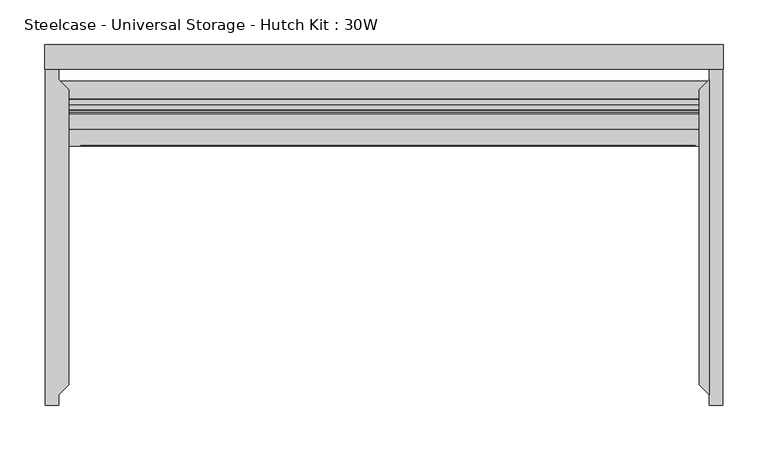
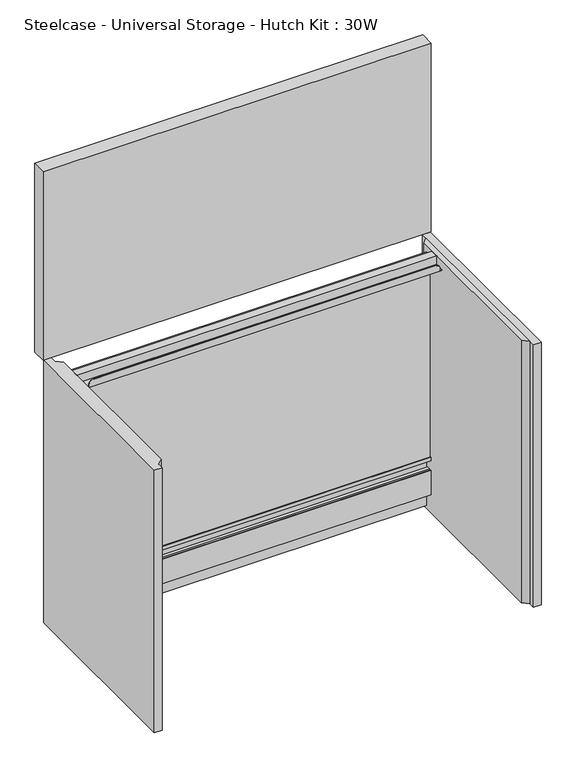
"""IFC4 building model written with IfcOpenShell, lengths in millimetres: furniture geometry, Steelcase - Universal Storage - Hutch Kit : 30W."""

from ifc_helpers import new_model, si_unit, frame, origin, place, context, project, spatial, polyline, circle_curve, outline, extrude, faceted_brep, source, transform, mapped, element, save
from ifc_brep_helpers import plane_surface, cylinder_surface, advanced_brep


def steelcase_universal_storage_hutch_kit_30w_beb12b78(model_context):
    return source(origin(), model_context, "Body", "SolidModel", [
        extrude(outline(polyline([(745.8202, -39.6494001), (745.8202, -393.4459972), (734.822, -382.447795), (734.822, -50.6476006), (745.8202, -39.6494001)])), frame((0.0, 0.0, 723.9), z_axis=(0.0, 0.0, 1.0), x_axis=(1.0, 0.0, 0.0)), (0.0, 0.0, 1.0), 544.8554),
        extrude(outline(polyline([(745.8202, -27.9400006), (761.1872, -27.9400006), (761.1872, -405.1553842), (745.8202, -405.1553842), (745.8202, -27.9400006)])), frame((0.0, 0.0, 723.9), z_axis=(0.0, 0.0, 1.0), x_axis=(1.0, 0.0, 0.0)), (0.0, 0.0, 1.0), 544.8554),
        extrude(outline(polyline([(16.1798, -405.1553842), (0.8128, -405.1553842), (0.8128, -27.9400006), (16.1798, -27.9400006), (16.1798, -39.6494001), (27.178, -50.6476006), (27.178, -382.447795), (16.1798, -393.4459972), (16.1798, -405.1553842)])), frame((0.0, 0.0, 723.9), z_axis=(0.0, 0.0, 1.0), x_axis=(1.0, 0.0, 0.0)), (0.0, 0.0, 1.0), 544.8554),
        advanced_brep(
        [(734.822, -78.4097988, 1250.975386), (734.822, -78.4097988, 1268.7554), (734.822, -94.7420005, 1268.7554), (734.822, -94.7420005, 1251.8898651), (734.822, -114.2492006, 1251.8898651), (734.822, -114.2492006, 1250.975386), (734.822, -93.8275986, 1250.975386), (734.822, -93.8275986, 1267.8410717), (734.822, -79.3242007, 1267.8410717), (734.822, -79.3242007, 1250.975386), (27.178, -78.4097988, 1250.975386), (27.178, -79.3242007, 1250.975386), (27.178, -79.3242007, 1267.8410717), (27.178, -93.8275986, 1267.8410717), (27.178, -93.8275986, 1250.975386), (27.178, -114.2492006, 1250.975386), (27.178, -114.2492006, 1251.8898651), (27.178, -94.7420005, 1251.8898651), (27.178, -94.7420005, 1268.7554), (27.178, -78.4097988, 1268.7554), (40.5892014, -114.2492006, 1251.8898651), (40.5892014, -113.3348006, 1251.8898651), (730.2809148, -113.3348006, 1251.8898651), (730.2809148, -114.2492006, 1251.8898651), (730.2809148, -114.2492006, 1256.0554636), (721.3909148, -114.2492006, 1264.9454636), (49.4792014, -114.2492006, 1264.9454636), (40.5892014, -114.2492006, 1256.0554636), (40.5892014, -113.3348006, 1256.0554636), (49.4792014, -113.3348006, 1264.9454636), (721.3909148, -113.3348006, 1264.9454636), (730.2809148, -113.3348006, 1256.0554636)],
        [
            (0, 1),
            (1, 2),
            (2, 3),
            (3, 4),
            (4, 5),
            (5, 6),
            (6, 7),
            (7, 8),
            (8, 9),
            (9, 0),
            (10, 11),
            (11, 12),
            (12, 13),
            (13, 14),
            (14, 15),
            (15, 16),
            (16, 17),
            (17, 18),
            (18, 19),
            (19, 10),
            (0, 10),
            (19, 1),
            (18, 2),
            (17, 3),
            (16, 20),
            (20, 21),
            (21, 22),
            (22, 23),
            (23, 4),
            (23, 24),
            (24, 25, circle_curve(frame((721.3909148, -114.2492006, 1256.0554636), z_axis=(0.0, -1.0, 0.0), x_axis=(1.0, 0.0, 0.0)), 8.89)),
            (25, 26),
            (26, 27, circle_curve(frame((49.4792014, -114.2492006, 1256.0554636), z_axis=(0.0, -1.0, 0.0), x_axis=(1.0, 0.0, 0.0)), 8.89)),
            (27, 20),
            (15, 5),
            (14, 6),
            (13, 7),
            (12, 8),
            (11, 9),
            (28, 29, circle_curve(frame((49.4792014, -113.3348006, 1256.0554636), z_axis=(0.0, 1.0, 0.0), x_axis=(1.0, 0.0, 0.0)), 8.89)),
            (29, 30),
            (30, 31, circle_curve(frame((721.3909148, -113.3348006, 1256.0554636), z_axis=(0.0, 1.0, 0.0), x_axis=(1.0, 0.0, 0.0)), 8.89)),
            (31, 22),
            (21, 28),
            (27, 28),
            (31, 24),
            (30, 25),
            (29, 26),
        ],
        [
            plane_surface(frame((734.822, -78.4097988, 1268.7554), z_axis=(1.0, 0.0, 0.0), x_axis=(0.0, 0.0, 1.0))),
            plane_surface(frame((27.178, -78.4097988, 1268.7554), z_axis=(-1.0, 0.0, 0.0), x_axis=(0.0, 0.0, -1.0))),
            plane_surface(frame((734.822, -78.4097988, 1250.975386), z_axis=(0.0, 1.0, 0.0), x_axis=(-1.0, 0.0, 0.0))),
            plane_surface(frame((734.822, -78.4097988, 1268.7554), z_axis=(0.0, 0.0, 1.0), x_axis=(-1.0, 0.0, 0.0))),
            plane_surface(frame((734.822, -94.7420005, 1268.7554), z_axis=(0.0, -1.0, 0.0), x_axis=(-1.0, 0.0, 0.0))),
            plane_surface(frame((734.822, -94.7420005, 1251.8898651), z_axis=(0.0, 0.0, 1.0), x_axis=(-1.0, 0.0, 0.0))),
            plane_surface(frame((734.822, -114.2492006, 1251.8898651), z_axis=(0.0, -1.0, 0.0), x_axis=(-1.0, 0.0, 0.0))),
            plane_surface(frame((734.822, -114.2492006, 1250.975386), z_axis=(0.0, 0.0, -1.0), x_axis=(-1.0, 0.0, 0.0))),
            plane_surface(frame((734.822, -93.8275986, 1250.975386), z_axis=(0.0, 1.0, 0.0), x_axis=(-1.0, 0.0, 0.0))),
            plane_surface(frame((734.822, -93.8275986, 1267.8410717), z_axis=(0.0, 0.0, -1.0), x_axis=(-1.0, 0.0, 0.0))),
            plane_surface(frame((734.822, -79.3242007, 1267.8410717), z_axis=(0.0, -1.0, 0.0), x_axis=(-1.0, 0.0, 0.0))),
            plane_surface(frame((734.822, -79.3242007, 1250.975386), z_axis=(0.0, 0.0, -1.0), x_axis=(-1.0, 0.0, 0.0))),
            plane_surface(frame((40.5892014, -113.3348006, 1251.8898651), z_axis=(0.0, 1.0, 0.0), x_axis=(0.0, 0.0, 1.0))),
            plane_surface(frame((40.5892014, -114.2492006, 1256.0554636), z_axis=(-1.0, 0.0, 0.0), x_axis=(0.0, 1.0, 0.0))),
            plane_surface(frame((730.2809148, -114.2492006, 1251.8898651), z_axis=(1.0, 0.0, 0.0), x_axis=(0.0, 1.0, 0.0))),
            cylinder_surface(frame((721.3909148, -113.3348006, 1256.0554636), z_axis=(0.0, -1.0, 0.0), x_axis=(1.0, 0.0, 0.0)), 8.89),
            plane_surface(frame((721.3909148, -114.2492006, 1264.9454636), z_axis=(0.0, 0.0, 1.0), x_axis=(0.0, 1.0, 0.0))),
            cylinder_surface(frame((49.4792014, -113.3348006, 1256.0554636), z_axis=(0.0, -1.0, 0.0), x_axis=(1.0, 0.0, 0.0)), 8.89),
        ],
        [
            (0, [[1, 2, 3, 4, 5, 6, 7, 8, 9, 10]]),
            (1, [[11, 12, 13, 14, 15, 16, 17, 18, 19, 20]]),
            (2, [[-1, 21, -20, 22]]),
            (3, [[-2, -22, -19, 23]]),
            (4, [[-3, -23, -18, 24]]),
            (5, [[-4, -24, -17, 25, 26, 27, 28, 29]]),
            (6, [[-5, -29, 30, 31, 32, 33, 34, -25, -16, 35]]),
            (7, [[-6, -35, -15, 36]]),
            (8, [[-7, -36, -14, 37]]),
            (9, [[-8, -37, -13, 38]]),
            (10, [[-9, -38, -12, 39]]),
            (11, [[-10, -39, -11, -21]]),
            (12, [[40, 41, 42, 43, -27, 44]]),
            (13, [[-34, 45, -44, -26]]),
            (14, [[-30, -28, -43, 46]]),
            (15, [[-31, -46, -42, 47]]),
            (16, [[-32, -47, -41, 48]]),
            (17, [[-33, -48, -40, -45]]),
        ],
    ),
        faceted_brep([(734.822, -60.7822002, 848.0044), (734.822, -60.7822002, 833.8820223), (734.822, -74.2695991, 833.8820223), (734.822, -74.2695991, 839.215999), (734.822, -75.7936022, 839.215999), (734.822, -75.7936022, 831.8500242), (734.822, -60.7652681, 831.8500242), (734.822, -60.7652681, 808.7613899), (734.822, -64.6684001, 808.7613899), (734.822, -64.6684001, 812.8000242), (734.822, -70.7136025, 812.8000242), (734.822, -70.7136025, 806.4499758), (734.822, -74.2695991, 806.4499758), (734.822, -74.2695991, 812.8000242), (734.822, -75.7936022, 812.8000242), (734.822, -75.7936022, 762.0), (734.822, -60.7652681, 762.0), (734.822, -60.7652681, 730.377), (734.822, -50.6476006, 730.377), (734.822, -50.6476006, 848.0044), (27.178, -60.7822002, 848.0044), (27.178, -50.6476006, 848.0044), (27.178, -50.6476006, 730.377), (27.178, -60.7652681, 730.377), (27.178, -60.7652681, 762.0), (27.178, -75.7936022, 762.0), (27.178, -75.7936022, 812.8000242), (27.178, -74.2695991, 812.8000242), (27.178, -74.2695991, 806.4499758), (27.178, -70.7136025, 806.4499758), (27.178, -70.7136025, 812.8000242), (27.178, -64.6684001, 812.8000242), (27.178, -64.6684001, 808.7613899), (27.178, -60.7652681, 808.7613899), (27.178, -60.7652681, 831.8500242), (27.178, -75.7936022, 831.8500242), (27.178, -75.7936022, 839.215999), (27.178, -74.2695991, 839.215999), (27.178, -74.2695991, 833.8820223), (27.178, -60.7822002, 833.8820223), (16.1798, -50.6476006, 730.377), (16.1798, -41.1480006, 730.377), (745.8202, -41.1480006, 730.377), (745.8202, -50.6476006, 730.377), (745.8202, -50.6476006, 848.0044), (745.8202, -41.1480006, 848.0044), (16.1798, -41.1480006, 848.0044), (16.1798, -50.6476006, 848.0044)], [[[0, 1, 2, 3, 4, 5, 6, 7, 8, 9, 10, 11, 12, 13, 14, 15, 16, 17, 18, 19]], [[20, 21, 22, 23, 24, 25, 26, 27, 28, 29, 30, 31, 32, 33, 34, 35, 36, 37, 38, 39]], [[1, 0, 20, 39]], [[2, 1, 39, 38]], [[3, 2, 38, 37]], [[4, 3, 37, 36]], [[5, 4, 36, 35]], [[6, 5, 35, 34]], [[7, 6, 34, 33]], [[8, 7, 33, 32]], [[9, 8, 32, 31]], [[10, 9, 31, 30]], [[11, 10, 30, 29]], [[12, 11, 29, 28]], [[13, 12, 28, 27]], [[14, 13, 27, 26]], [[15, 14, 26, 25]], [[16, 15, 25, 24]], [[17, 16, 24, 23]], [[18, 17, 23, 22, 40, 41, 42, 43]], [[0, 19, 44, 45, 46, 47, 21, 20]], [[44, 43, 42, 45]], [[47, 46, 41, 40]], [[43, 44, 19, 18]], [[47, 40, 22, 21]], [[45, 42, 41, 46]]]),
        extrude(outline(polyline([(734.822, -61.9759999), (734.822, -67.5258996), (27.178, -67.5258996), (27.178, -61.9759999), (734.822, -61.9759999)])), frame((0.0, 0.0, 833.8820223), z_axis=(0.0, 0.0, 1.0), x_axis=(1.0, 0.0, 0.0)), (0.0, 0.0, 1.0), 423.4941359),
        extrude(outline(polyline([(734.822, -67.5258996), (734.822, -73.0618558), (27.178, -73.0618558), (27.178, -67.5258996), (734.822, -67.5258996)])), frame((0.0, 0.0, 833.8820223), z_axis=(0.0, 0.0, 1.0), x_axis=(1.0, 0.0, 0.0)), (0.0, 0.0, 1.0), 423.4941359),
        extrude(outline(polyline([(762.0, 0.0), (762.0, -27.9400006), (0.0, -27.9400006), (0.0, 0.0), (762.0, 0.0)])), frame((0.0, 0.0, 1268.7554), z_axis=(0.0, 0.0, 1.0), x_axis=(1.0, 0.0, 0.0)), (0.0, 0.0, 1.0), 391.9220132),
    ])


if __name__ == "__main__":
    model = new_model("IFC4")
    model_context = context("Model", 3, world=origin())
    ifc_project = project(units=[si_unit("LENGTHUNIT", "METRE", prefix="MILLI")], contexts=[model_context])
    site = spatial("IfcSite", under=ifc_project)
    building = spatial("IfcBuilding", under=site)
    placement = place(None, origin())
    steelcase_universal_storage_hutch_kit_30w_shape = steelcase_universal_storage_hutch_kit_30w_beb12b78(model_context)
    element("IfcFurniture", 1, ObjectType="Steelcase - Universal Storage - Hutch Kit : 30W", at=placement, inside=building, context=model_context, shape_type="MappedRepresentation", body=[
        mapped(steelcase_universal_storage_hutch_kit_30w_shape, transform((0.0, 0.0, 0.0), x_axis=(1.0, 0.0, 0.0), y_axis=(0.0, 1.0, 0.0), z_axis=(0.0, 0.0, 1.0))),
    ])
    save(model, "model.ifc")
